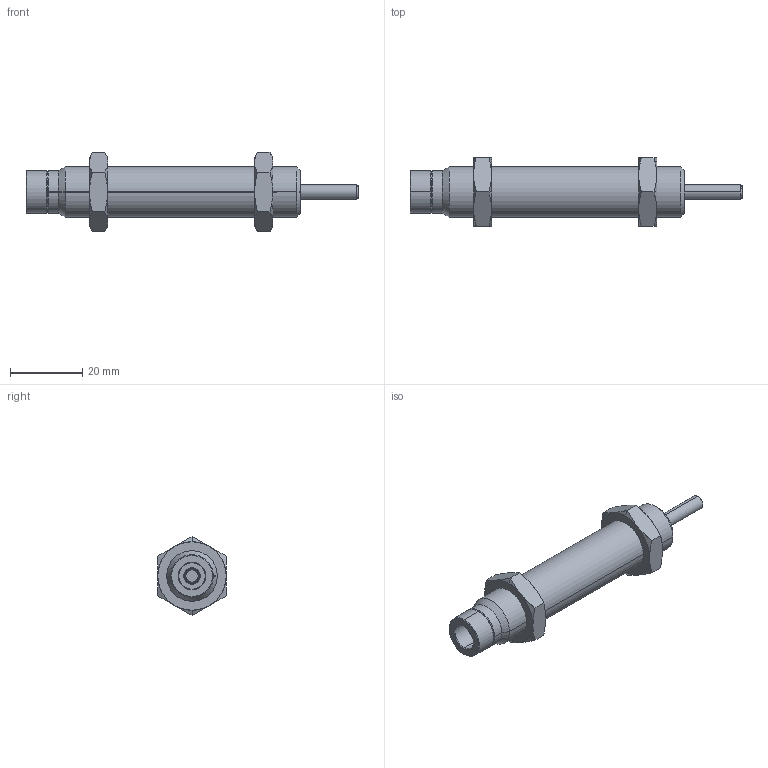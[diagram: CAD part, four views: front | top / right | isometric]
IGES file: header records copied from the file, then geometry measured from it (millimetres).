
Start section: SolidWorks IGES file using analytic representation for surfaces
Global section: file name: D:\IGS跡宒\AC1416(P1.0)-CN.IGS,1; native system: 5HSolidWorks 2013; preprocessor: SolidWorks 2013; author: Administrator; date: 160412.105736; units: inch
Bounding box: 92 x 19 x 21.94 mm (x, y, z)
Surface area: 5642.4 mm2 (no closed solid volume)
Topology: 0 solids, 0 shells, 69 faces, 1224 edges, 1224 vertices
Faces by surface type: revolution 46, bspline 23
